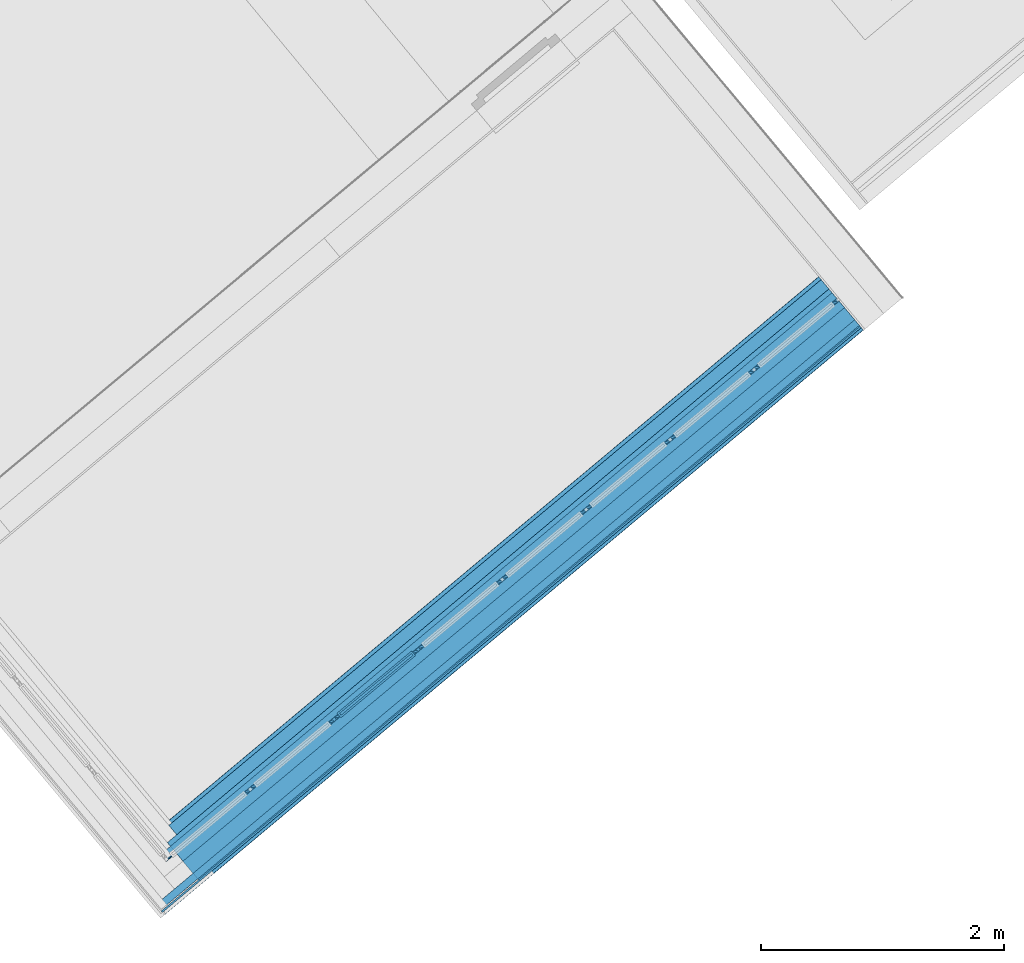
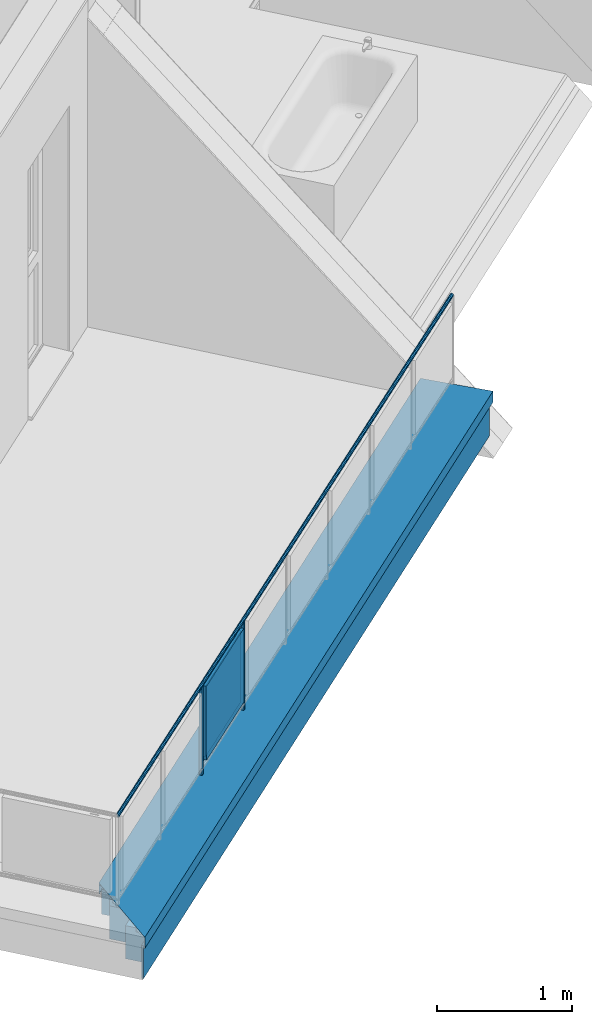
# One storey, part 14 of 50: 14 building element parts, 2 elements without a shape of their own.
"""IFC4 building model written with IfcOpenShell, lengths in metres."""

import ifcopenshell
import ifcopenshell.guid

model = None  # the IFC model being written
_history = None  # IfcOwnerHistory: only IFC2X3 demands one
_inside = {}  # id of a spatial element -> (the spatial element, [elements in it])
_under = {}  # id of a project, library or spatial element -> (it, [spatial elements below it])
_declared = {}  # id of a project -> (the project, [libraries it declares])
_typed = {}  # id of a type object -> (the type object, [elements of that type])
_made_of = {}  # id of a material, layer set ... -> (it, [elements and type objects made of it])


def new_model(schema):
    """Start an empty IFC model of exactly this schema.

    Asked for "IFC4X3", IfcOpenShell would pick the latest addendum, in which some entities
    have other attributes; the version numbers below select the first issue.
    IFC2X3 requires an IfcOwnerHistory on every rooted entity: one is made here for all.
    """
    global model, _history
    if schema == "IFC4X3":
        model = ifcopenshell.file(schema_version=(4, 3, 0, 0))
    else:
        model = ifcopenshell.file(schema=schema)
    _inside.clear()
    _under.clear()
    _declared.clear()
    _typed.clear()
    _made_of.clear()
    _history = None
    if model.schema == "IFC2X3":
        org = make("IfcOrganization", Name="unknown")
        user = make(
            "IfcPersonAndOrganization",
            ThePerson=make("IfcPerson", FamilyName="unknown"),
            TheOrganization=org,
        )
        app = make(
            "IfcApplication",
            ApplicationDeveloper=org,
            Version="unknown",
            ApplicationFullName="unknown",
            ApplicationIdentifier="unknown",
        )
        _history = make(
            "IfcOwnerHistory",
            OwningUser=user,
            OwningApplication=app,
            ChangeAction="ADDED",
            CreationDate=0,
        )
    return model


def make(cls, **values):
    """One entity of the class cls with the attributes given. An attribute that is None is left unset."""
    return model.create_entity(
        cls, **{name: value for name, value in values.items() if value is not None}
    )


def entity(cls, *values):
    """Any entity or typed value of the class cls, its attributes in the order of the schema. None: left unset."""
    e = model.create_entity(cls)
    for i, value in enumerate(values):
        if value is not None:
            e[i] = value
    return e


def rooted(cls, **values):
    """An entity with a GlobalId (a new one), such as an element, a storey or a relation."""
    return make(cls, GlobalId=ifcopenshell.guid.new(), OwnerHistory=_history, **values)


def si_unit(unit_type, name, prefix=None):
    """IfcSIUnit, for example si_unit("LENGTHUNIT", "METRE", prefix="MILLI")."""
    return make("IfcSIUnit", UnitType=unit_type, Prefix=prefix, Name=name)


def converted_unit(unit_type, name, factor, base, dimensions=None, offset=None):
    """IfcConversionBasedUnit, such as the inch: factor (a typed value) times the base unit."""
    return make(
        "IfcConversionBasedUnit"
        if offset is None
        else "IfcConversionBasedUnitWithOffset",
        ConversionOffset=offset,
        Dimensions=None
        if dimensions is None
        else entity("IfcDimensionalExponents", *dimensions),
        UnitType=unit_type,
        Name=name,
        ConversionFactor=make(
            "IfcMeasureWithUnit", ValueComponent=factor, UnitComponent=base
        ),
    )


def derived_unit(unit_type, elements):
    """IfcDerivedUnit: a product of units, each with its exponent."""
    return make(
        "IfcDerivedUnit",
        Elements=[
            make("IfcDerivedUnitElement", Unit=unit, Exponent=power)
            for unit, power in elements
        ],
        UnitType=unit_type,
    )


def assignment(units):
    """IfcUnitAssignment: the units of a project."""
    return None if units is None else make("IfcUnitAssignment", Units=units)


def point(xyz):
    """IfcCartesianPoint."""
    return None if xyz is None else make("IfcCartesianPoint", Coordinates=xyz)


def direction(xyz):
    """IfcDirection."""
    return None if xyz is None else make("IfcDirection", DirectionRatios=xyz)


def frame(location, z_axis=None, x_axis=None):
    """IfcAxis2Placement3D, a coordinate frame: its origin and axes. An axis left out is left unset."""
    return make(
        "IfcAxis2Placement3D",
        Location=point(location),
        Axis=direction(z_axis),
        RefDirection=direction(x_axis),
    )


def origin_with_axes():
    """The frame at (0, 0, 0) with the z axis (0, 0, 1) and the x axis (1, 0, 0) written out."""
    return frame((0.0, 0.0, 0.0), z_axis=(0.0, 0.0, 1.0), x_axis=(1.0, 0.0, 0.0))


def place(relative_to, where):
    """IfcLocalPlacement: puts the frame where relative to a parent placement (None: the world)."""
    return make(
        "IfcLocalPlacement", PlacementRelTo=relative_to, RelativePlacement=where
    )


def context(
    kind, dimensions, precision=None, world=None, true_north=None, identifier=None
):
    """IfcGeometricRepresentationContext, for example the 3D "Model" context."""
    return make(
        "IfcGeometricRepresentationContext",
        ContextIdentifier=identifier,
        ContextType=kind,
        CoordinateSpaceDimension=dimensions,
        Precision=precision,
        WorldCoordinateSystem=world,
        TrueNorth=true_north,
    )


def subcontext(parent, identifier, kind, view, scale=None):
    """IfcGeometricRepresentationSubContext, for example "Body" below "Model"."""
    return make(
        "IfcGeometricRepresentationSubContext",
        ContextIdentifier=identifier,
        ContextType=kind,
        ParentContext=parent,
        TargetScale=scale,
        TargetView=view,
    )


def project(units=None, contexts=None):
    """IfcProject with its units and contexts."""
    return rooted(
        "IfcProject",
        Name="project",
        RepresentationContexts=contexts,
        UnitsInContext=assignment(units),
    )


def spatial(cls, under=None, at=None, **own):
    """A site, building, storey or space (cls), placed at a placement, below another one or the project."""
    s = rooted(cls, ObjectPlacement=at, **own)
    if under is not None:
        _under.setdefault(under.id(), (under, []))[1].append(s)
    return s


def point_list(points):
    """IfcCartesianPointList2D or 3D."""
    cls = (
        "IfcCartesianPointList2D" if len(points[0]) == 2 else "IfcCartesianPointList3D"
    )
    return make(cls, CoordList=points)


def polygons(points, faces, closed=None, point_numbers=None):
    """IfcPolygonalFaceSet: a face is its outer loop, then its inner loops; points numbered from 1."""
    made = []
    for loops in faces:
        if len(loops) == 1:
            made.append(make("IfcIndexedPolygonalFace", CoordIndex=loops[0]))
        else:
            made.append(
                make(
                    "IfcIndexedPolygonalFaceWithVoids",
                    CoordIndex=loops[0],
                    InnerCoordIndices=loops[1:],
                )
            )
    return make(
        "IfcPolygonalFaceSet",
        Coordinates=point_list(points),
        Closed=closed,
        Faces=made,
        PnIndex=point_numbers,
    )


def shape(context_of_items, identifier, shape_type, items):
    """IfcShapeRepresentation: the items that make up one representation, for example the "Body"."""
    return make(
        "IfcShapeRepresentation",
        ContextOfItems=context_of_items,
        RepresentationIdentifier=identifier,
        RepresentationType=shape_type,
        Items=items,
    )


def material(Name=None, Category=None):
    """IfcMaterial."""
    return make("IfcMaterial", Name=Name, Category=Category)


def made_of(thing, what):
    """Note that an element or type object is made of a material, layer set ...; save() writes the relation."""
    if what is not None:
        _made_of.setdefault(what.id(), (what, []))[1].append(thing)
    return thing


def type_object(cls, material=None, **own):
    """A type object (cls), such as IfcWallType, which elements share."""
    return made_of(rooted(cls, **own), material)


def element(
    cls,
    number,
    at=None,
    inside=None,
    cuts=None,
    type_object=None,
    material=None,
    context=None,
    identifier="Body",
    shape_type=None,
    held_by="IfcProductDefinitionShape",
    body=None,
    shapes=None,
    **own,
):
    """One element of the class cls, such as IfcWall. Its Tag is "e" and its number.

    at: its placement. inside: the storey or other place that contains it. cuts: it is an
    opening in that element (IfcRelVoidsElement). A single representation is given by context,
    identifier, shape_type and body (its items); several are given by shapes. held_by: the class
    of the entity that holds the representations. save() writes the other relations.
    """
    e = rooted(cls, Tag="e%d" % number, ObjectPlacement=at, **own)
    if body is not None:
        shapes = [shape(context, identifier, shape_type, body)]
    if shapes is not None:
        e.Representation = make(held_by, Representations=shapes)
    if inside is not None:
        _inside.setdefault(inside.id(), (inside, []))[1].append(e)
    if cuts is not None:
        rooted(
            "IfcRelVoidsElement", RelatingBuildingElement=cuts, RelatedOpeningElement=e
        )
    if type_object is not None:
        _typed.setdefault(type_object.id(), (type_object, []))[1].append(e)
    return made_of(e, material)


def aggregate(whole, parts):
    """IfcRelAggregates: a whole, such as a stair, and the parts it consists of."""
    return rooted("IfcRelAggregates", RelatingObject=whole, RelatedObjects=parts)


def save(model, path):
    """Write the relations noted so far, then the file.

    IfcRelAggregates (storeys below a building ...), IfcRelContainedInSpatialStructure (elements
    in a storey), IfcRelDefinesByType, IfcRelAssociatesMaterial and IfcRelDeclares: one each for
    every whole, place, type object, material and project.
    """
    for whole, parts in _under.values():
        aggregate(whole, parts)
    for where, things in _inside.values():
        rooted(
            "IfcRelContainedInSpatialStructure",
            RelatedElements=things,
            RelatingStructure=where,
        )
    for kind, things in _typed.values():
        rooted("IfcRelDefinesByType", RelatedObjects=things, RelatingType=kind)
    for what, things in _made_of.values():
        rooted("IfcRelAssociatesMaterial", RelatedObjects=things, RelatingMaterial=what)
    for by, libraries in _declared.values():
        rooted("IfcRelDeclares", RelatingContext=by, RelatedDefinitions=libraries)
    model.write(path)


model = new_model("IFC4")

# Units and contexts
model_context = context("Model", 3, precision=1e-05, world=origin_with_axes(), true_north=direction((0.0, 1.0)))
body_context = subcontext(model_context, "Body", "Model", "MODEL_VIEW")
ifc_project = project(units=[si_unit("LENGTHUNIT", "METRE"), si_unit("AREAUNIT", "SQUARE_METRE"), si_unit("VOLUMEUNIT", "CUBIC_METRE"), converted_unit("PLANEANGLEUNIT", "DEGREE", entity("IfcPlaneAngleMeasure", 0.0174532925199), si_unit("PLANEANGLEUNIT", "RADIAN"), dimensions=[0, 0, 0, 0, 0, 0, 0]), converted_unit("TIMEUNIT", "Year", entity("IfcTimeMeasure", 31556926.0), si_unit("TIMEUNIT", "SECOND"), dimensions=[0, 0, 1, 0, 0, 0, 0]), si_unit("MASSUNIT", "GRAM", prefix="KILO"), si_unit("THERMODYNAMICTEMPERATUREUNIT", "DEGREE_CELSIUS"), si_unit("LUMINOUSINTENSITYUNIT", "LUMEN"), si_unit("ENERGYUNIT", "JOULE", prefix="MEGA"), derived_unit("THERMALCONDUCTANCEUNIT", [(si_unit("POWERUNIT", "WATT"), 1), (si_unit("LENGTHUNIT", "METRE"), -1), (si_unit("THERMODYNAMICTEMPERATUREUNIT", "KELVIN"), -1)]), derived_unit("SPECIFICHEATCAPACITYUNIT", [(si_unit("ENERGYUNIT", "JOULE"), 1), (si_unit("MASSUNIT", "GRAM", prefix="KILO"), -1), (si_unit("THERMODYNAMICTEMPERATUREUNIT", "KELVIN"), -1)]), derived_unit("MASSDENSITYUNIT", [(si_unit("MASSUNIT", "GRAM", prefix="KILO"), 1), (si_unit("VOLUMEUNIT", "CUBIC_METRE"), -1)])], contexts=[model_context])

# Site, building, storey
site_placement = place(None, frame((-0.00153261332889, -0.00661245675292, 0.0), z_axis=(0.0, 0.0, 1.0), x_axis=(1.0, 0.0, 0.0)))
site = spatial("IfcSite", under=ifc_project, at=site_placement, Name="Gelände", CompositionType="ELEMENT")
building_placement = place(site_placement, origin_with_axes())
building = spatial("IfcBuilding", under=site, at=building_placement, Name="Gebäude", CompositionType="ELEMENT")
storey_placement = place(building_placement, frame((0.0, 0.0, 8.66), z_axis=(0.0, 0.0, 1.0), x_axis=(1.0, 0.0, 0.0)))
storey = spatial("IfcBuildingStorey", under=building, at=storey_placement, Name="DG2", CompositionType="ELEMENT", Elevation=8.66)

# Wall, building element parts
wall_type = type_object("IfcWallType", Name="Bauteil - Attika Terrasse 1.DG 574 x 410", PredefinedType="NOTDEFINED")
wall_placement = place(storey_placement, frame((-1.23091753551, 10.4352832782, -0.2), z_axis=(0.0, 0.0, 1.0), x_axis=(0.766948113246, 0.641709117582, 0.0)))
wall = element("IfcWall", 1, at=wall_placement, inside=storey, type_object=wall_type, Name="Wand-004", PredefinedType="NOTDEFINED")
ifc_material_1 = material(Name="Stahl")
building_element_part_1_placement = place(wall_placement, origin_with_axes())
building_element_part_1 = element("IfcBuildingElementPart", 2, at=building_element_part_1_placement, material=ifc_material_1, Name="Stahl", PredefinedType="NOTDEFINED", context=body_context, shape_type="Tessellation", body=[
    polygons([(-0.24030865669, -0.241500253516, 0.586106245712), (-0.240308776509, -0.241500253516, 0.587938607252), (-0.240307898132, -0.240151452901, 0.587938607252), (-0.240307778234, -0.240151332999, 0.586106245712), (-0.240304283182, -0.241500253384, 0.519224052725), (-0.240303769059, -0.241500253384, 0.511361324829), (-0.23838920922, -0.241500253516, 0.511361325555), (-0.239743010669, -0.241500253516, 0.510007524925), (7.29218276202, -0.241500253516, 0.510007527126), (7.29218276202, -0.241500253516, 0.610006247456), (-0.241657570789, -0.241500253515, 0.610006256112), (-0.202887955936, -0.241500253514, 0.608602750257), (-0.240310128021, -0.241500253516, 0.608602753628), (-0.240310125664, -0.241500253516, 0.608570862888), (-0.24030852, -0.241500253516, 0.584015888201), (-0.240307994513, -0.241500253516, 0.575979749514), (-0.240307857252, -0.241500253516, 0.573880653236), (-0.240307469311, -0.241500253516, 0.567947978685), (-0.240306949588, -0.241500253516, 0.560000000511), (-0.240309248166, -0.240152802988, 0.608570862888), (-0.238388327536, -0.24014644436, 0.511361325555), (-0.240302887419, -0.24014644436, 0.511361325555), (-0.240303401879, -0.240146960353, 0.519224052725), (-0.240306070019, -0.240149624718, 0.560000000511), (-0.240306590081, -0.240150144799, 0.567947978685), (-0.240306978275, -0.240150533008, 0.573880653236), (-0.240307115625, -0.240150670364, 0.575979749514), (-0.240307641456, -0.240151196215, 0.584015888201), (-0.240309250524, -0.240152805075, 0.608602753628), (-0.202887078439, -0.240152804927, 0.608602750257), (7.29218276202, -0.240152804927, 0.608602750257), (7.29218276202, -0.240146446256, 0.51136132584), (-0.240699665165, -0.240542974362, 0.50905023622), (-0.238387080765, -0.238231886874, 0.511361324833), (7.29218276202, -0.240542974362, 0.509050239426), (7.29218276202, 0.330698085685, 0.491006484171), (7.29218276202, 0.32288233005, 0.498822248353), (7.29218276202, 0.321878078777, 0.497911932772), (7.29218276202, 0.331094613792, 0.488695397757), (7.29218276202, 0.332051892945, 0.489652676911), (7.29218276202, 0.332051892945, 0.589243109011), (7.29218276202, -0.231373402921, 0.518219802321), (7.29218276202, -0.232283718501, 0.519224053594), (7.29218276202, -0.239276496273, 0.608570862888), (7.29218276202, 0.330698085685, 0.587937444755), (-0.202862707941, -0.202730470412, 0.608602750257), (0.332268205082, 0.332051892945, 0.589243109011), (-0.201981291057, -0.201849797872, 0.608570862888), (-0.202005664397, -0.239276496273, 0.608570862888), (-0.231525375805, -0.233287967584, 0.518219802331), (-0.232435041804, -0.23228372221, 0.519224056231), (-0.23152412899, -0.23137340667, 0.518219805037), (0.330913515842, 0.33069808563, 0.49100648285), (0.323092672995, 0.322882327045, 0.498822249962), (0.332267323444, 0.330698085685, 0.491006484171), (0.32400232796, 0.32187807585, 0.497911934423), (0.332266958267, 0.330137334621, 0.489652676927), (0.331310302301, 0.331094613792, 0.488695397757), (0.330912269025, 0.328783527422, 0.49100648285), (0.332266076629, 0.328783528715, 0.491006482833), (0.332268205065, 0.332051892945, 0.489652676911), (0.332268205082, 0.332051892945, 0.49100648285), (0.332268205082, 0.332051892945, 0.498822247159), (0.332268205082, 0.332051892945, 0.499999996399), (0.332268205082, 0.332051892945, 0.50905023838), (0.332268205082, 0.332051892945, 0.511361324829), (0.332268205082, 0.332051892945, 0.519224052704), (0.332268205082, 0.332051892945, 0.559999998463), (0.332268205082, 0.332051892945, 0.567947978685), (0.332268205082, 0.332051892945, 0.573880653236), (0.332268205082, 0.332051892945, 0.575979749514), (0.332268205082, 0.332051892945, 0.584015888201), (0.332268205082, 0.332051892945, 0.586106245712), (0.332268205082, 0.332051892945, 0.587938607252), (0.332243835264, 0.294630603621, 0.589243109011), (0.332267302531, 0.330665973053, 0.587938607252), (0.332267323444, 0.330698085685, 0.587937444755), (0.332267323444, 0.330698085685, 0.498822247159), (0.332267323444, 0.330698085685, 0.586106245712), (0.332267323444, 0.330698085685, 0.584015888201), (0.332267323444, 0.330698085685, 0.575979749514), (0.332267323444, 0.330698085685, 0.573880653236), (0.332267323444, 0.330698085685, 0.567947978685), (0.332267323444, 0.330698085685, 0.559999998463), (0.332267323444, 0.330698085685, 0.519224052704), (0.332267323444, 0.330698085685, 0.511361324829), (0.332267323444, 0.330698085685, 0.50905023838), (0.332267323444, 0.330698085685, 0.499999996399)], [[[1, 2, 3, 4]], [[5, 6, 7, 8, 9, 10, 11, 12, 13, 14, 2, 1, 15, 16, 17, 18, 19]], [[14, 20, 3, 2]], [[21, 22, 23, 24, 25, 26, 27, 28, 4, 3, 20, 29, 30, 31, 32]], [[15, 1, 4, 28]], [[22, 6, 5, 23]], [[6, 22, 21, 7]], [[33, 8, 7, 21, 34]], [[8, 33, 35, 9]], [[36, 37, 38, 39, 40, 41, 10, 9, 35, 42, 43, 32, 31, 44, 45]], [[46, 11, 10, 41, 47, 48]], [[12, 11, 46, 30]], [[29, 13, 12, 30]], [[20, 14, 13, 29]], [[16, 15, 28, 27]], [[17, 16, 27, 26]], [[18, 17, 26, 25]], [[19, 18, 25, 24]], [[5, 19, 24, 23]], [[30, 49, 44, 31]], [[50, 21, 32, 43, 51]], [[34, 21, 50, 52]], [[33, 34, 52, 42, 35]], [[53, 54, 37, 36, 55]], [[54, 56, 38, 37]], [[57, 58, 39, 38, 56, 59, 60]], [[58, 61, 40, 39]], [[62, 63, 64, 65, 66, 67, 68, 69, 70, 71, 72, 73, 74, 47, 41, 40, 61]], [[52, 51, 43, 42]], [[49, 75, 76, 77, 45, 44]], [[78, 55, 36, 45, 77, 79, 80, 81, 82, 83, 84, 85, 86, 87, 88]], [[49, 48, 47, 75]], [[48, 49, 30, 46]], [[51, 52, 50]], [[56, 54, 53, 59]], [[53, 55, 60, 59]], [[58, 57, 61]], [[60, 55, 62, 61, 57]], [[55, 78, 63, 62]], [[78, 88, 64, 63]], [[88, 87, 65, 64]], [[87, 86, 66, 65]], [[86, 85, 67, 66]], [[85, 84, 68, 67]], [[68, 84, 83, 69]], [[69, 83, 82, 70]], [[81, 71, 70, 82]], [[71, 81, 80, 72]], [[72, 80, 79, 73]], [[73, 79, 77, 74]], [[76, 75, 47, 74, 77]]], closed=True),
])
ifc_material_2 = material(Name="Holzwerkstoff")
building_element_part_2_placement = place(wall_placement, origin_with_axes())
building_element_part_2 = element("IfcBuildingElementPart", 3, at=building_element_part_2_placement, material=ifc_material_2, Name="Holzwerkstoff", PredefinedType="NOTDEFINED", context=body_context, shape_type="Tessellation", body=[
    polygons([(-0.239432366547, -0.239276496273, 0.608570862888), (0.330913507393, 0.330698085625, 0.587938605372), (0.330541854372, -0.23999699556, 0.587938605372), (7.29218276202, -0.239276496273, 0.608570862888), (7.29218276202, 0.330698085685, 0.587938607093), (0.330849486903, 0.330634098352, 0.586106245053), (0.330510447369, -0.189985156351, 0.5861062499), (0.330538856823, -0.239999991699, 0.587852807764), (7.29218276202, -0.239999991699, 0.587852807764), (7.29218276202, 0.160110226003, 0.573880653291), (7.29218276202, 0.329999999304, 0.567947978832), (7.29218276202, -0.189984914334, 0.586106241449), (7.29218276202, -0.130124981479, 0.584015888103), (7.29218276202, 0.100000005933, 0.575979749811), (0.330214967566, 0.329999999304, 0.567947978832), (0.330422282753, 0.330207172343, 0.573880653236), (0.33049563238, 0.330280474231, 0.57597974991), (0.330776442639, 0.330561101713, 0.584015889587), (0.330476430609, -0.130125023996, 0.584015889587), (0.330311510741, 0.160110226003, 0.573880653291), (0.330345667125, 0.100000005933, 0.575979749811)], [[[1, 2, 3]], [[2, 1, 4, 5]], [[2, 6, 7, 8, 3]], [[1, 3, 8, 9, 4]], [[10, 11, 5, 4, 9, 12, 13, 14]], [[15, 16, 17, 18, 6, 2, 5, 11]], [[18, 19, 7, 6]], [[8, 7, 12, 9]], [[20, 15, 11, 10]], [[7, 19, 13, 12]], [[21, 14, 13, 19]], [[21, 20, 10, 14]], [[15, 20, 16]], [[20, 21, 17, 16]], [[17, 21, 19, 18]]], closed=True),
])
ifc_material_3 = material(Name="EPS 1")
building_element_part_3_placement = place(wall_placement, origin_with_axes())
building_element_part_3 = element("IfcBuildingElementPart", 4, at=building_element_part_3_placement, material=ifc_material_3, Name="EPS 1", PredefinedType="NOTDEFINED", context=body_context, shape_type="Tessellation", body=[
    polygons([(0.300195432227, 0.3, 0.560000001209), (0.300130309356, 0.2, 0.560000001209), (7.29218276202, 0.2, 0.560000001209), (7.29218276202, 0.3, 0.560000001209), (0.300130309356, 0.2, 0.519224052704), (0.300195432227, 0.3, 0.519224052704), (0.300130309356, 0.2, 0.511361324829), (0.300130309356, 0.2, 0.50905023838), (0.300130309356, 0.2, 0.499999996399), (0.300130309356, 0.2, 0.498822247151), (0.300130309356, 0.2, 0.49100648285), (0.300130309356, 0.2, 0.488695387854), (0.300130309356, 0.2, 0.335), (7.29218276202, 0.2, 0.335), (7.29218276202, 0.3, 0.335), (0.300195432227, 0.3, 0.335), (0.300195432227, 0.3, 0.488695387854), (0.300195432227, 0.3, 0.49100648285), (0.300195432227, 0.3, 0.498822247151), (0.300195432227, 0.3, 0.499999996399), (0.300195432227, 0.3, 0.50905023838), (0.300195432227, 0.3, 0.511361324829)], [[[1, 2, 3, 4]], [[5, 2, 1, 6]], [[2, 5, 7, 8, 9, 10, 11, 12, 13, 14, 3]], [[14, 15, 4, 3]], [[6, 1, 4, 15, 16, 17, 18, 19, 20, 21, 22]], [[5, 6, 22, 7]], [[7, 22, 21, 8]], [[8, 21, 20, 9]], [[9, 20, 19, 10]], [[10, 19, 18, 11]], [[11, 18, 17, 12]], [[12, 17, 16, 13]], [[13, 16, 15, 14]]], closed=True),
])
ifc_material_4 = material(Name="Vollholz")
building_element_part_4_placement = place(wall_placement, origin_with_axes())
building_element_part_4 = element("IfcBuildingElementPart", 5, at=building_element_part_4_placement, material=ifc_material_4, Name="Vollholz", PredefinedType="NOTDEFINED", context=body_context, shape_type="Tessellation", body=[
    polygons([(0.100065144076, 0.100000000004, 0.575979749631), (0.16017538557, 0.1, 0.573880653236), (0.160128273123, 0.1, 0.567947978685), (0.160065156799, 0.1, 0.560000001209), (7.29218276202, 0.1, 0.560000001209), (7.29218276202, 0.1, 0.575979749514), (0.160214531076, 0.160110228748, 0.573880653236), (0.160167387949, 0.160063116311, 0.567947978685), (0.160104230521, 0.16, 0.560000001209), (7.29218276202, 0.16, 0.560000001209), (7.29218276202, 0.160110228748, 0.573880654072)], [[[1, 2, 3, 4, 5, 6]], [[7, 2, 1]], [[2, 7, 8, 3]], [[3, 8, 9, 4]], [[4, 9, 10, 5]], [[10, 11, 6, 5]], [[7, 1, 6, 11]], [[8, 7, 11, 10, 9]]], closed=True),
])
ifc_material_5 = material(Name="Stahlbeton")
building_element_part_5_placement = place(wall_placement, origin_with_axes())
building_element_part_5 = element("IfcBuildingElementPart", 6, at=building_element_part_5_placement, material=ifc_material_5, Name="Stahlbeton", PredefinedType="NOTDEFINED", context=body_context, shape_type="Tessellation", body=[
    polygons([(0.200130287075, 0.199999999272, 0.500000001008), (0.200000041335, 2.17661977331e-09, 0.500000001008), (7.29218276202, 1.82835790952e-09, 0.500000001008), (7.29218276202, 0.199999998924, 0.500000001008), (0.200000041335, 2.19700169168e-09, 0.498822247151), (0.200130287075, 0.199999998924, 0.498822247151), (0.200000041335, 2.19700169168e-09, 0.49100648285), (0.200000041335, 2.19700169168e-09, 0.488695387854), (0.200000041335, 2.19699991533e-09, 0.335), (0.200000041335, 1.82835790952e-09, 0.2), (7.29218276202, 1.82835790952e-09, 0.2), (7.29218276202, 0.199999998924, 0.2), (7.29218276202, 0.199999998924, 0.335000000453), (0.200130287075, 0.199999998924, 0.335), (0.200130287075, 0.199999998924, 0.488695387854), (0.200130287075, 0.199999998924, 0.49100648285), (0.200130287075, 0.199999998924, 0.2)], [[[1, 2, 3, 4]], [[5, 2, 1, 6]], [[2, 5, 7, 8, 9, 10, 11, 3]], [[12, 13, 4, 3, 11]], [[6, 1, 4, 13, 14, 15, 16]], [[5, 6, 16, 7]], [[7, 16, 15, 8]], [[8, 15, 14, 9]], [[9, 14, 17, 10]], [[10, 17, 12, 11]], [[17, 14, 13, 12]]], closed=True),
])
building_element_part_6_placement = place(wall_placement, origin_with_axes())
building_element_part_6 = element("IfcBuildingElementPart", 7, at=building_element_part_6_placement, material=ifc_material_3, Name="EPS 1", PredefinedType="NOTDEFINED", context=body_context, shape_type="Tessellation", body=[
    polygons([(-2.39831265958e-10, 1.18175691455e-10, 0.499999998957), (-0.000130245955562, -0.199999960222, 0.499999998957), (7.29218276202, -0.19999996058, 0.499999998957), (7.29218276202, -2.39907649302e-10, 0.499999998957), (-0.000130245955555, -0.199999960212, 0.498822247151), (-2.40063968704e-10, -2.39907649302e-10, 0.498822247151), (-0.000130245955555, -0.199999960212, 0.49100648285), (-0.000130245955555, -0.199999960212, 0.488695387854), (-0.000130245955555, -0.199999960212, 0.335), (-0.000130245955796, -0.19999996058, 0.2), (7.29218276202, -0.19999996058, 0.2), (7.29218276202, -2.39907649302e-10, 0.2), (-2.40063968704e-10, -2.39907649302e-10, 0.2), (-2.40063968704e-10, -2.39907649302e-10, 0.335), (-2.40063968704e-10, -2.39907649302e-10, 0.488695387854), (-2.40063968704e-10, -2.39907649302e-10, 0.49100648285)], [[[1, 2, 3, 4]], [[5, 2, 1, 6]], [[2, 5, 7, 8, 9, 10, 11, 3]], [[11, 12, 4, 3]], [[6, 1, 4, 12, 13, 14, 15, 16]], [[5, 6, 16, 7]], [[7, 16, 15, 8]], [[8, 15, 14, 9]], [[9, 14, 13, 10]], [[10, 13, 12, 11]]], closed=True),
])
building_element_part_7_placement = place(wall_placement, origin_with_axes())
building_element_part_7 = element("IfcBuildingElementPart", 8, at=building_element_part_7_placement, material=ifc_material_4, Name="Vollholz", PredefinedType="NOTDEFINED", context=body_context, shape_type="Tessellation", body=[
    polygons([(-0.190108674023, -0.189984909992, 0.586106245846), (-0.130248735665, -0.189996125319, 0.584015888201), (-0.130248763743, -0.190039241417, 0.575979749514), (-0.130248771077, -0.190050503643, 0.573880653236), (-0.130248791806, -0.190082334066, 0.567947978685), (-0.130248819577, -0.190124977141, 0.560000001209), (7.29218276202, -0.190124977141, 0.560000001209), (7.29218276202, -0.189984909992, 0.586106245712), (-0.130209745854, -0.130124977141, 0.584015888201), (-0.130209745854, -0.130124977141, 0.575979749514), (-0.130209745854, -0.130124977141, 0.573880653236), (-0.130209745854, -0.130124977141, 0.567947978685), (-0.130209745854, -0.130124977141, 0.560000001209), (7.29218276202, -0.130124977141, 0.560000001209), (7.29218276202, -0.130124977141, 0.584015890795)], [[[1, 2, 3, 4, 5, 6, 7, 8]], [[9, 2, 1]], [[2, 9, 10, 3]], [[3, 10, 11, 4]], [[4, 11, 12, 5]], [[5, 12, 13, 6]], [[6, 13, 14, 7]], [[14, 15, 8, 7]], [[9, 1, 8, 15]], [[10, 9, 15, 14, 13, 12, 11]]], closed=True),
])
ifc_material_6 = material(Name="Zementputz")
building_element_part_8_placement = place(wall_placement, origin_with_axes())
building_element_part_8 = element("IfcBuildingElementPart", 9, at=building_element_part_8_placement, material=ifc_material_6, Name="Zementputz", PredefinedType="NOTDEFINED", context=body_context, shape_type="Tessellation", body=[
    polygons([(-0.20013024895, -0.199999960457, 0.499999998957), (-0.200140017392, -0.214999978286, 0.499999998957), (7.29218276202, -0.214999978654, 0.499999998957), (7.29218276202, -0.199999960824, 0.499999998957), (-0.200140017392, -0.214999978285, 0.498822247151), (-0.20013024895, -0.199999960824, 0.498822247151), (-0.200140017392, -0.214999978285, 0.49100648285), (-0.200140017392, -0.214999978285, 0.488695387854), (-0.200140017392, -0.214999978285, 0.335), (-0.200140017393, -0.214999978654, 0.2), (7.29218276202, -0.214999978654, 0.2), (7.29218276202, -0.199999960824, 0.2), (-0.20013024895, -0.199999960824, 0.2), (-0.20013024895, -0.199999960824, 0.335), (-0.20013024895, -0.199999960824, 0.488695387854), (-0.20013024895, -0.199999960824, 0.49100648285)], [[[1, 2, 3, 4]], [[5, 2, 1, 6]], [[2, 5, 7, 8, 9, 10, 11, 3]], [[3, 11, 12, 4]], [[6, 1, 4, 12, 13, 14, 15, 16]], [[5, 6, 16, 7]], [[7, 16, 15, 8]], [[8, 15, 14, 9]], [[9, 14, 13, 10]], [[10, 13, 12, 11]]], closed=True),
])
ifc_material_7 = material(Name="Brettschichtholz")
building_element_part_9_placement = place(wall_placement, origin_with_axes())
building_element_part_9 = element("IfcBuildingElementPart", 10, at=building_element_part_9_placement, material=ifc_material_7, Name="Brettschichtholz", PredefinedType="NOTDEFINED", context=body_context, shape_type="Tessellation", body=[
    polygons([(0.199876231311, -0.190124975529, 0.559999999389), (0.199860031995, -0.214999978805, 0.559999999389), (7.29218276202, -0.214999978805, 0.559999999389), (7.29218276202, -0.190124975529, 0.559999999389), (0.199860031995, -0.214999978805, 0.519224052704), (0.199915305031, -0.130124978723, 0.559999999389), (0.200065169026, 0.100000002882, 0.559999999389), (0.200104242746, 0.159999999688, 0.559999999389), (0.200130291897, 0.200000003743, 0.559999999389), (0.200130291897, 0.200000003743, 0.519224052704), (0.199860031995, -0.214999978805, 0.511361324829), (0.199860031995, -0.214999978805, 0.50905023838), (0.199860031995, -0.214999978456, 0.500000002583), (7.29218276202, -0.214999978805, 0.499999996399), (7.29218276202, 0.100000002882, 0.559999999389), (7.29218276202, -0.130124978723, 0.559999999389), (7.29218276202, 0.200000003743, 0.500000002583), (7.29218276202, 0.200000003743, 0.559999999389), (7.29218276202, 0.159999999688, 0.559999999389), (0.200130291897, 0.200000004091, 0.500000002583), (0.200130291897, 0.200000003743, 0.50905023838), (0.200130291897, 0.200000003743, 0.511361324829)], [[[1, 2, 3, 4]], [[5, 2, 1, 6, 7, 8, 9, 10]], [[2, 5, 11, 12, 13, 14, 3]], [[15, 16, 4, 3, 14, 17, 18, 19]], [[6, 1, 4, 16]], [[7, 6, 16, 15]], [[8, 7, 15, 19]], [[9, 8, 19, 18]], [[10, 9, 18, 17, 20, 21, 22]], [[5, 10, 22, 11]], [[11, 22, 21, 12]], [[12, 21, 20, 13]], [[13, 20, 17, 14]]], closed=True),
])
aggregate(wall, [building_element_part_1, building_element_part_2, building_element_part_3, building_element_part_4, building_element_part_5, building_element_part_6, building_element_part_7, building_element_part_8, building_element_part_9])

# Space
space_placement = place(storey_placement, frame((2.45868563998, 17.3922711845, 0.22), z_axis=(0.0, 0.0, 1.0), x_axis=(-0.766948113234, -0.641709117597, 0.0)))
space = spatial("IfcSpace", under=storey, at=space_placement, CompositionType="ELEMENT", PredefinedType="NOTDEFINED")

# Railing, building element parts
railing_type = type_object("IfcRailingType", Name="Geländerart", PredefinedType="NOTDEFINED")
railing_placement = place(space_placement, frame((7.13717596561, 0.00077071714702, 0.16), z_axis=(0.0, 0.0, 1.0), x_axis=(-0.766948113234, 0.641709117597, 0.0)))
railing = element("IfcRailing", 11, at=railing_placement, inside=space, type_object=railing_type, Name="Geländer - 001", PredefinedType="NOTDEFINED")
ifc_material_8 = material(Name="Aluminium")
building_element_part_10_placement = place(railing_placement, origin_with_axes())
building_element_part_10 = element("IfcBuildingElementPart", 12, at=building_element_part_10_placement, material=ifc_material_8, Name="Aluminium", PredefinedType="NOTDEFINED", context=body_context, shape_type="Tessellation", body=[
    polygons([(1.80279568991, -2.21040989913, 0.825), (1.80276676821, -2.21073055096, 0.827604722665), (7.31327435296, 2.37859456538, 0.827604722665), (7.31312851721, 2.37876967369, 0.825), (1.80276676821, -2.21073055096, 0.822395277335), (1.80268088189, -2.21168276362, 0.81986969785), (1.80254064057, -2.21323760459, 0.8175), (1.80235030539, -2.21534783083, 0.815358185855), (1.80211565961, -2.21794932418, 0.813509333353), (1.80184383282, -2.22096303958, 0.812009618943), (1.80154308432, -2.22429740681, 0.810904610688), (1.80122255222, -2.22785111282, 0.810227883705), (1.80089197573, -2.23151618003, 0.81), (1.80056139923, -2.23518124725, 0.810227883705), (1.80024086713, -2.23873495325, 0.810904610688), (1.79994011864, -2.24206932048, 0.812009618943), (1.79966829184, -2.24508303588, 0.813509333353), (1.79943364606, -2.24768452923, 0.815358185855), (1.79924331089, -2.24979475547, 0.8175), (1.79910306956, -2.25134959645, 0.81986969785), (1.79901718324, -2.2523018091, 0.822395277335), (1.79898826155, -2.25262246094, 0.825), (1.79901718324, -2.2523018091, 0.827604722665), (1.79910306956, -2.25134959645, 0.83013030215), (1.79924331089, -2.24979475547, 0.8325), (1.79943364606, -2.24768452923, 0.834641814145), (1.79966829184, -2.24508303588, 0.836490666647), (1.79994011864, -2.24206932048, 0.837990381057), (1.80024086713, -2.23873495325, 0.839095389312), (1.80056139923, -2.23518124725, 0.839772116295), (1.80089197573, -2.23151618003, 0.84), (1.80122255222, -2.22785111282, 0.839772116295), (1.80154308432, -2.22429740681, 0.839095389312), (1.80184383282, -2.22096303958, 0.837990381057), (1.80211565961, -2.21794932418, 0.836490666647), (1.80235030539, -2.21534783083, 0.834641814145), (1.80254064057, -2.21323760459, 0.8325), (1.80268088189, -2.21168276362, 0.83013030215), (7.31370742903, 2.37807456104, 0.83013030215), (7.31441458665, 2.37722546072, 0.8325), (7.31537433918, 2.37607306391, 0.834641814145), (7.31655752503, 2.37465238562, 0.836490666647), (7.31792819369, 2.37300659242, 0.837990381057), (7.31944469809, 2.37118569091, 0.839095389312), (7.32106096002, 2.36924500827, 0.839772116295), (7.32272787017, 2.36724351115, 0.84), (7.32439478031, 2.36524201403, 0.839772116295), (7.32601104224, 2.36330133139, 0.839095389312), (7.32752754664, 2.36148042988, 0.837990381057), (7.3288982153, 2.35983463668, 0.836490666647), (7.33008140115, 2.35841395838, 0.834641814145), (7.33104115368, 2.35726156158, 0.8325), (7.3317483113, 2.35641246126, 0.83013030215), (7.33218138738, 2.35589245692, 0.827604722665), (7.33232722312, 2.35571734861, 0.825), (7.33218138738, 2.35589245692, 0.822395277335), (7.3317483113, 2.35641246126, 0.81986969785), (7.33104115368, 2.35726156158, 0.8175), (7.33008140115, 2.35841395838, 0.815358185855), (7.3288982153, 2.35983463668, 0.813509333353), (7.32752754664, 2.36148042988, 0.812009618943), (7.32601104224, 2.36330133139, 0.810904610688), (7.32439478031, 2.36524201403, 0.810227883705), (7.32272787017, 2.36724351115, 0.81), (7.32106096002, 2.36924500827, 0.810227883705), (7.31944469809, 2.37118569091, 0.810904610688), (7.31792819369, 2.37300659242, 0.812009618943), (7.31655752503, 2.37465238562, 0.813509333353), (7.31537433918, 2.37607306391, 0.815358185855), (7.31441458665, 2.37722546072, 0.8175), (7.31370742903, 2.37807456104, 0.81986969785), (7.31327435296, 2.37859456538, 0.822395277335)], [[[1, 2, 3, 4]], [[1, 5, 6, 7, 8, 9, 10, 11, 12, 13, 14, 15, 16, 17, 18, 19, 20, 21, 22, 23, 24, 25, 26, 27, 28, 29, 30, 31, 32, 33, 34, 35, 36, 37, 38, 2]], [[2, 38, 39, 3]], [[4, 3, 39, 40, 41, 42, 43, 44, 45, 46, 47, 48, 49, 50, 51, 52, 53, 54, 55, 56, 57, 58, 59, 60, 61, 62, 63, 64, 65, 66, 67, 68, 69, 70, 71, 72]], [[5, 1, 4, 72]], [[6, 5, 72, 71]], [[7, 6, 71, 70]], [[8, 7, 70, 69]], [[9, 8, 69, 68]], [[10, 9, 68, 67]], [[11, 10, 67, 66]], [[12, 11, 66, 65]], [[13, 12, 65, 64]], [[14, 13, 64, 63]], [[15, 14, 63, 62]], [[16, 15, 62, 61]], [[17, 16, 61, 60]], [[18, 17, 60, 59]], [[19, 18, 59, 58]], [[20, 19, 58, 57]], [[21, 20, 57, 56]], [[22, 21, 56, 55]], [[23, 22, 55, 54]], [[24, 23, 54, 53]], [[25, 24, 53, 52]], [[26, 25, 52, 51]], [[27, 26, 51, 50]], [[28, 27, 50, 49]], [[29, 28, 49, 48]], [[30, 29, 48, 47]], [[31, 30, 47, 46]], [[32, 31, 46, 45]], [[33, 32, 45, 44]], [[34, 33, 44, 43]], [[35, 34, 43, 42]], [[36, 35, 42, 41]], [[37, 36, 41, 40]], [[38, 37, 40, 39]]], closed=True),
])
building_element_part_11_placement = place(railing_placement, origin_with_axes())
building_element_part_11 = element("IfcBuildingElementPart", 13, at=building_element_part_11_placement, material=ifc_material_8, Name="Aluminium", PredefinedType="NOTDEFINED", context=body_context, shape_type="Tessellation", body=[
    polygons([(3.19895554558, -1.0834319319, -0.3), (3.18295662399, -1.06422166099, -0.3), (3.18295662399, -1.06422166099, 0.82), (3.19895554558, -1.0834319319, 0.82), (3.17974527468, -1.09943085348, -0.3), (3.16374635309, -1.08022058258, -0.3), (3.16374635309, -1.08022058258, 0.82), (3.17974527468, -1.09943085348, 0.82)], [[[1, 2, 3, 4]], [[1, 5, 6, 2]], [[2, 6, 7, 3]], [[4, 3, 7, 8]], [[5, 1, 4, 8]], [[6, 5, 8, 7]]], closed=True),
])
ifc_material_9 = material(Name="Profilit")
building_element_part_12_placement = place(railing_placement, origin_with_axes())
building_element_part_12 = element("IfcBuildingElementPart", 14, at=building_element_part_12_placement, material=ifc_material_9, Name="Profilit", PredefinedType="NOTDEFINED", context=body_context, shape_type="Tessellation", body=[
    polygons([(3.81523416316, -0.5408943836, 0.135), (3.22489808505, -1.03254495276, 0.135), (3.22489808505, -1.03254495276, 0.775), (3.81523416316, -0.5408943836, 0.775), (3.23769722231, -1.04791316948, 0.135), (3.82803330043, -0.556262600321, 0.135), (3.23769722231, -1.04791316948, 0.775), (3.82803330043, -0.556262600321, 0.775)], [[[1, 2, 3, 4]], [[5, 2, 1, 6]], [[7, 3, 2, 5]], [[4, 3, 7, 8]], [[1, 4, 8, 6]], [[7, 5, 6, 8]]], closed=True),
])
building_element_part_13_placement = place(railing_placement, origin_with_axes())
building_element_part_13 = element("IfcBuildingElementPart", 15, at=building_element_part_13_placement, material=ifc_material_8, Name="Aluminium", PredefinedType="NOTDEFINED", context=body_context, shape_type="Tessellation", body=[
    polygons([(3.29501268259, -0.983911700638, 0.12), (3.34880144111, -0.9391147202, 0.12), (3.34880144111, -0.9391147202, 0.095), (3.29501268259, -0.983911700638, 0.095), (3.29821246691, -0.987753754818, 0.12), (3.35200122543, -0.94295677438, 0.12), (3.35200122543, -0.94295677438, 0.095), (3.29821246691, -0.987753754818, 0.095)], [[[1, 2, 3, 4]], [[5, 6, 2, 1]], [[2, 6, 7, 3]], [[4, 3, 7, 8]], [[1, 4, 8, 5]], [[8, 7, 6, 5]]], closed=True),
    polygons([(3.75471891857, -0.601053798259, 0.79), (3.70093016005, -0.645850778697, 0.79), (3.70093016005, -0.645850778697, 0.795), (3.75471891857, -0.601053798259, 0.795), (3.75791870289, -0.604895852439, 0.79), (3.70412994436, -0.649692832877, 0.79), (3.70412994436, -0.649692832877, 0.795), (3.75791870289, -0.604895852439, 0.795)], [[[1, 2, 3, 4]], [[5, 6, 2, 1]], [[2, 6, 7, 3]], [[4, 3, 7, 8]], [[1, 4, 8, 5]], [[8, 7, 6, 5]]], closed=True),
    polygons([(3.23577041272, -1.06903868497, 0.12), (3.20377256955, -1.03061814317, 0.12), (3.81716097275, -0.519768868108, 0.12), (3.84915881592, -0.558189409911, 0.12), (3.25113862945, -1.0562395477, 0.14), (3.2415392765, -1.04471338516, 0.14), (3.23769722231, -1.04791316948, 0.135), (3.22489808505, -1.03254495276, 0.135), (3.22874013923, -1.02934516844, 0.14), (3.21914078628, -1.0178190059, 0.14), (3.80179275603, -0.532568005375, 0.14), (3.80179275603, -0.532568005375, 0.77), (3.21914078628, -1.0178190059, 0.77), (3.21914078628, -1.0178190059, 0.14), (3.20377256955, -1.03061814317, 0.12), (3.20377256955, -1.03061814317, 0.79), (3.81716097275, -0.519768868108, 0.79), (3.84915881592, -0.558189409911, 0.79), (3.23577041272, -1.06903868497, 0.79), (3.23577041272, -1.06903868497, 0.12), (3.25113862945, -1.0562395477, 0.14), (3.25113862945, -1.0562395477, 0.77), (3.8337905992, -0.570988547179, 0.77), (3.8337905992, -0.570988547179, 0.14), (3.82419124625, -0.559462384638, 0.14), (3.82419124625, -0.559462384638, 0.77), (3.2415392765, -1.04471338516, 0.77), (3.2415392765, -1.04471338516, 0.14), (3.23769722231, -1.04791316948, 0.135), (3.23769722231, -1.04791316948, 0.775), (3.82803330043, -0.556262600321, 0.775), (3.82803330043, -0.556262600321, 0.135), (3.81523416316, -0.5408943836, 0.135), (3.81523416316, -0.5408943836, 0.775), (3.22489808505, -1.03254495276, 0.775), (3.22489808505, -1.03254495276, 0.135), (3.22874013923, -1.02934516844, 0.14), (3.22874013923, -1.02934516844, 0.77), (3.81139210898, -0.544094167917, 0.77), (3.81139210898, -0.544094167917, 0.14)], [[[1, 2, 3, 4]], [[1, 5, 6, 7, 8, 9, 10, 2]], [[2, 10, 11, 12, 13, 14, 15, 16, 17, 3]], [[4, 3, 17, 18]], [[5, 1, 4, 18, 19, 20, 21, 22, 23, 24]], [[6, 5, 24, 25]], [[7, 6, 25, 26, 27, 28, 29, 30, 31, 32]], [[8, 7, 32, 33]], [[9, 8, 33, 34, 35, 36, 37, 38, 39, 40]], [[10, 9, 40, 11]], [[11, 40, 39, 12]], [[12, 39, 38, 13]], [[13, 38, 37, 14]], [[20, 15, 14, 37, 36, 29, 28, 21]], [[19, 16, 15, 20]], [[18, 17, 16, 19]], [[27, 22, 21, 28]], [[26, 23, 22, 27]], [[25, 24, 23, 26]], [[35, 30, 29, 36]], [[34, 31, 30, 35]], [[33, 32, 31, 34]]], closed=True),
])
building_element_part_14_placement = place(railing_placement, origin_with_axes())
building_element_part_14 = element("IfcBuildingElementPart", 16, at=building_element_part_14_placement, material=ifc_material_8, Name="Aluminium", PredefinedType="NOTDEFINED", context=body_context, shape_type="Tessellation", body=[
    polygons([(3.88918503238, -0.508586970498, -0.3), (3.8731861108, -0.489376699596, -0.3), (3.8731861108, -0.489376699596, 0.82), (3.88918503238, -0.508586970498, 0.82), (3.86997476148, -0.524585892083, -0.3), (3.8539758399, -0.505375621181, -0.3), (3.8539758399, -0.505375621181, 0.82), (3.86997476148, -0.524585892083, 0.82)], [[[1, 2, 3, 4]], [[1, 5, 6, 2]], [[2, 6, 7, 3]], [[4, 3, 7, 8]], [[5, 1, 4, 8]], [[6, 5, 8, 7]]], closed=True),
])
aggregate(railing, [building_element_part_10, building_element_part_11, building_element_part_12, building_element_part_13, building_element_part_14])

save(model, "model.ifc")
